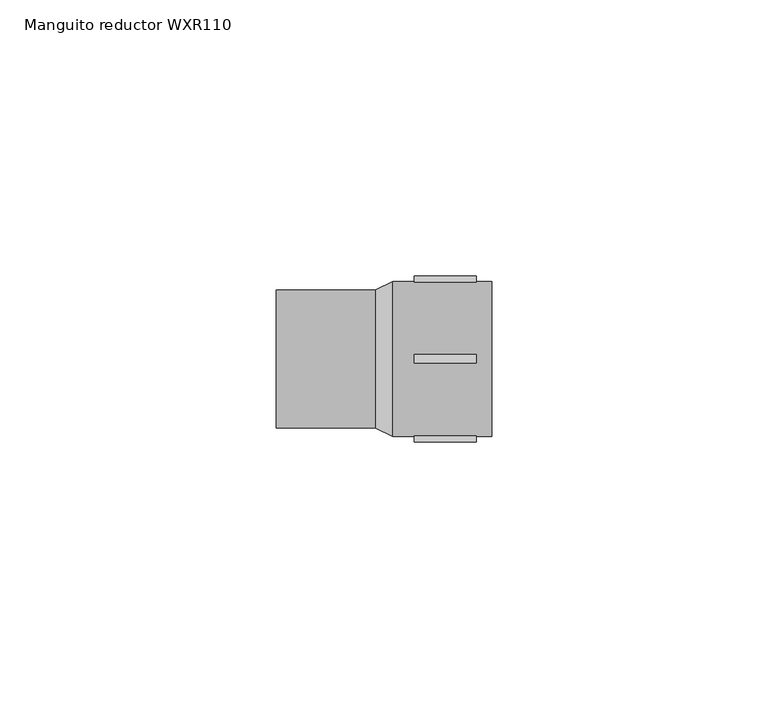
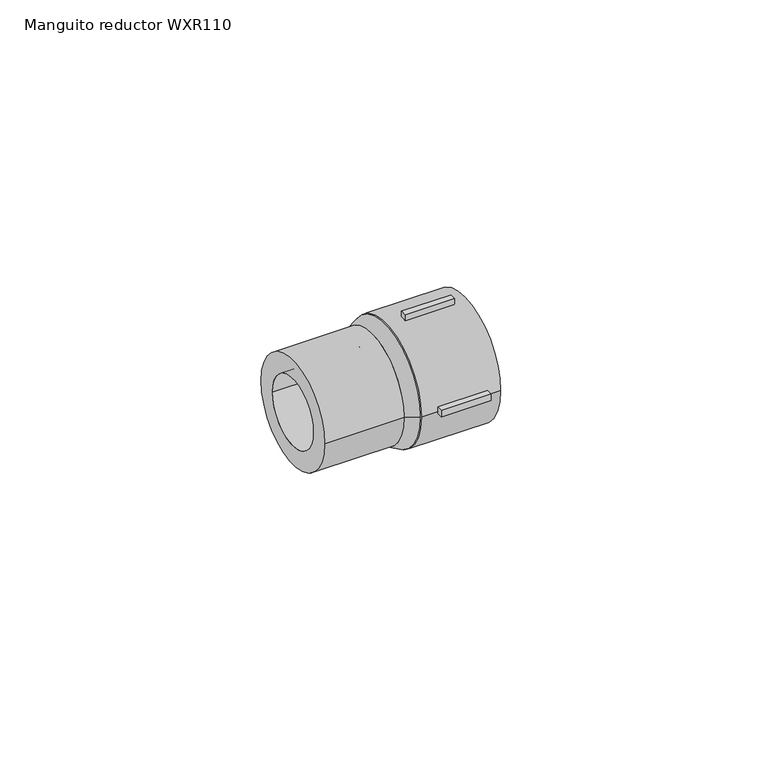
"""IFC4 building model written with IfcOpenShell, lengths in millimetres: pipe fitting geometry, EGB_VASEN_ PPR_Manguito reductor WXR110 : Manguito reductor WXR110."""

from ifc_helpers import new_model, si_unit, point, frame, origin, origin_2d, place, context, project, spatial, polyline, circle_curve, trimmed, segment, composite_curve, outline, extrude, source, transform, mapped, element, save
from ifc_brep_helpers import plane_surface, revolved_surface, advanced_brep


def manguito_reductor_wxr110_6dbe384f(model_context):
    return source(origin(), model_context, "Body", "SolidModel", [
        extrude(outline(polyline([(5.5, -0.75), (5.5, 0.75), (16.7, 0.75), (16.7, -0.75), (5.5, -0.75)])), frame((0.0, 0.0, 13.0), z_axis=(0.0, 0.0, 1.0), x_axis=(1.0, 0.0, 0.0)), (0.0, 0.0, 1.0), 2.0),
        extrude(outline(polyline([(5.5, -0.75), (5.5, 0.75), (16.7, 0.75), (16.7, -0.75), (5.5, -0.75)])), frame((0.0, 0.0, -15.0), z_axis=(0.0, 0.0, 1.0), x_axis=(1.0, 0.0, 0.0)), (0.0, 0.0, 1.0), 2.0),
        extrude(outline(polyline([(5.5, 13.0), (5.5, 15.0), (16.7, 15.0), (16.7, 13.0), (5.5, 13.0)])), frame((0.0, 0.0, -0.75), z_axis=(0.0, 0.0, 1.0), x_axis=(1.0, 0.0, 0.0)), (0.0, 0.0, 1.0), 1.5),
        extrude(outline(polyline([(5.5, -15.0), (5.5, -13.0), (16.7, -13.0), (16.7, -15.0), (5.5, -15.0)])), frame((0.0, 0.0, -0.75), z_axis=(0.0, 0.0, 1.0), x_axis=(1.0, 0.0, 0.0)), (0.0, 0.0, 1.0), 1.5),
        extrude(outline(composite_curve([segment(trimmed(circle_curve(origin_2d(), 14.0), [point((-14.0, 0.0))], [point((14.0, 0.0))], False, "CARTESIAN"), True, "CONTINUOUS"), segment(trimmed(circle_curve(origin_2d(), 14.0), [point((14.0, 0.0))], [point((-14.0, 0.0))], False, "CARTESIAN"), True, "CONTINUOUS")], self_intersect=False), holes=[composite_curve([segment(trimmed(circle_curve(origin_2d(), 10.0), [point((-10.0, 0.0))], [point((10.0, 0.0))], True, "CARTESIAN"), True, "CONTINUOUS"), segment(trimmed(circle_curve(origin_2d(), 10.0), [point((10.0, 0.0))], [point((-10.0, 0.0))], True, "CARTESIAN"), True, "CONTINUOUS")], self_intersect=False)]), frame((1.56, 0.0, 0.0), z_axis=(1.0, 0.0, 0.0), x_axis=(0.0, 1.0, 0.0)), (0.0, 0.0, 1.0), 17.94),
        extrude(outline(composite_curve([segment(trimmed(circle_curve(origin_2d(), 12.5), [point((-12.5, 0.0))], [point((12.5, 0.0))], False, "CARTESIAN"), True, "CONTINUOUS"), segment(trimmed(circle_curve(origin_2d(), 12.5), [point((12.5, 0.0))], [point((-12.5, 0.0))], False, "CARTESIAN"), True, "CONTINUOUS")], self_intersect=False), holes=[composite_curve([segment(trimmed(circle_curve(origin_2d(), 8.0), [point((-8.0, 0.0))], [point((8.0, 0.0))], True, "CARTESIAN"), True, "CONTINUOUS"), segment(trimmed(circle_curve(origin_2d(), 8.0), [point((8.0, 0.0))], [point((-8.0, 0.0))], True, "CARTESIAN"), True, "CONTINUOUS")], self_intersect=False)]), frame((-19.5, 0.0, 0.0), z_axis=(1.0, 0.0, 0.0), x_axis=(0.0, 1.0, 0.0)), (0.0, 0.0, 1.0), 17.94),
        advanced_brep(
        [(1.56, -14.0, 0.0), (1.56, 14.0, 0.0), (-1.56, -12.5, 0.0), (-1.56, 12.5, 0.0)],
        [
            (0, 1, circle_curve(frame((1.56, 0.0, 0.0), z_axis=(1.0, 0.0, 0.0), x_axis=(0.0, -1.0, 0.0)), 14.0)),
            (1, 0, circle_curve(frame((1.56, 0.0, 0.0), z_axis=(1.0, 0.0, 0.0), x_axis=(0.0, 1.0, 0.0)), 14.0)),
            (2, 3, circle_curve(frame((-1.56, 0.0, 0.0), z_axis=(-1.0, 0.0, 0.0), x_axis=(0.0, 1.0, 0.0)), 12.5)),
            (3, 2, circle_curve(frame((-1.56, 0.0, 0.0), z_axis=(-1.0, 0.0, 0.0), x_axis=(0.0, -1.0, 0.0)), 12.5)),
            (3, 1),
            (0, 2),
        ],
        [
            plane_surface(frame((1.56, 0.0, 0.0), z_axis=(1.0, 0.0, 0.0), x_axis=(0.0, 0.0, -1.0))),
            plane_surface(frame((-1.56, 0.0, 0.0), z_axis=(-1.0, 0.0, 0.0), x_axis=(0.0, 0.0, -1.0))),
            revolved_surface(polyline([(-1.5599999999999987, 12.5, 0.0), (1.5599999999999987, 14.0, 0.0)]), (-27.56, 0.0, 0.0), (1.0, 0.0, 0.0)),
            revolved_surface(polyline([(-1.5599999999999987, -12.5, 0.0), (1.5599999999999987, -14.0, 0.0)]), (-27.56, 0.0, 0.0), (1.0, 0.0, 0.0)),
        ],
        [
            (0, [[1, 2]]),
            (1, [[3, 4]]),
            (2, [[-4, 5, -1, 6]]),
            (3, [[-3, -6, -2, -5]]),
        ],
    ),
    ])


if __name__ == "__main__":
    model = new_model("IFC4")
    model_context = context("Model", 3, world=origin())
    ifc_project = project(units=[si_unit("LENGTHUNIT", "METRE", prefix="MILLI")], contexts=[model_context])
    site = spatial("IfcSite", under=ifc_project)
    building = spatial("IfcBuilding", under=site)
    placement = place(None, origin())
    manguito_reductor_wxr110_shape = manguito_reductor_wxr110_6dbe384f(model_context)
    element("IfcPipeFitting", 1, ObjectType="EGB_VASEN_ PPR_Manguito reductor WXR110 : Manguito reductor WXR110", at=placement, inside=building, context=model_context, shape_type="MappedRepresentation", body=[
        mapped(manguito_reductor_wxr110_shape, transform((0.0, 0.0, 0.0), x_axis=(1.0, 0.0, 0.0), y_axis=(0.0, 1.0, 0.0), z_axis=(0.0, 0.0, 1.0))),
    ])
    save(model, "model.ifc")
